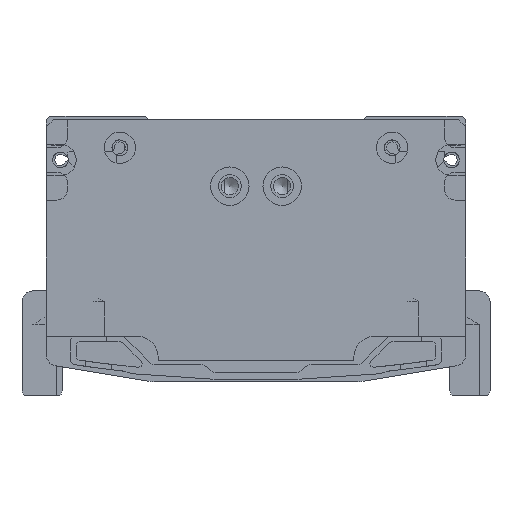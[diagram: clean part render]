
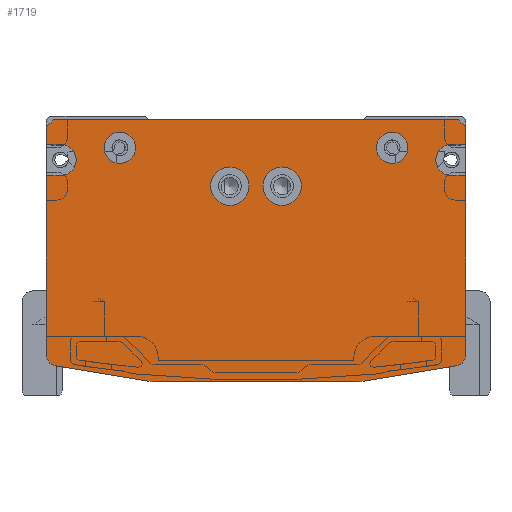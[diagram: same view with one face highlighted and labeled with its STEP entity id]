
A CAD part, front view. The second image highlights one B-rep face of the part: STEP entity #1719.
In plain terms, the highlighted planar face has unit normal (0, -1, 0).
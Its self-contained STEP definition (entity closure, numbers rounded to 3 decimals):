
#1719=ADVANCED_FACE('',(#5116,#5117,#5118,#5119,#5120),#2392,.F.);
#2392=PLANE('',#17083);
#2899=LINE('',#24738,#4008);
#2903=LINE('',#24746,#4012);
#3041=LINE('',#25639,#4150);
#3068=LINE('',#25693,#4177);
#3072=LINE('',#25701,#4181);
#3246=LINE('',#26888,#4355);
#3248=LINE('',#26891,#4357);
#3252=LINE('',#26898,#4361);
#3255=LINE('',#26907,#4364);
#3268=LINE('',#26942,#4377);
#3273=LINE('',#26956,#4382);
#3277=LINE('',#26968,#4386);
#3299=LINE('',#27030,#4408);
#3302=LINE('',#27039,#4411);
#4008=VECTOR('',#19054,1.);
#4012=VECTOR('',#19058,1.);
#4150=VECTOR('',#19530,1.);
#4177=VECTOR('',#19571,1.);
#4181=VECTOR('',#19575,1.);
#4355=VECTOR('',#20383,1.);
#4357=VECTOR('',#20387,1.);
#4361=VECTOR('',#20393,1.);
#4364=VECTOR('',#20404,1.);
#4377=VECTOR('',#20437,1.);
#4382=VECTOR('',#20450,1.);
#4386=VECTOR('',#20462,1.);
#4408=VECTOR('',#20538,1.);
#4411=VECTOR('',#20549,1.);
#5116=FACE_BOUND('',#6320,.T.);
#5117=FACE_BOUND('',#6321,.T.);
#5118=FACE_BOUND('',#6322,.T.);
#5119=FACE_BOUND('',#6323,.T.);
#5120=FACE_BOUND('',#6324,.T.);
#6320=EDGE_LOOP('',(#9345));
#6321=EDGE_LOOP('',(#9346));
#6322=EDGE_LOOP('',(#9347,#9348,#9349,#9350,#9351,#9352,#9353,#9354,#9355,
#9356,#9357,#9358,#9359,#9360,#9361,#9362,#9363,#9364,#9365,#9366));
#6323=EDGE_LOOP('',(#9367));
#6324=EDGE_LOOP('',(#9368));
#9345=ORIENTED_EDGE('',*,*,#14347,.T.);
#9346=ORIENTED_EDGE('',*,*,#14351,.T.);
#9347=ORIENTED_EDGE('',*,*,#14412,.T.);
#9348=ORIENTED_EDGE('',*,*,#14408,.F.);
#9349=ORIENTED_EDGE('',*,*,#14406,.F.);
#9350=ORIENTED_EDGE('',*,*,#14403,.F.);
#9351=ORIENTED_EDGE('',*,*,#14399,.T.);
#9352=ORIENTED_EDGE('',*,*,#14396,.T.);
#9353=ORIENTED_EDGE('',*,*,#14041,.F.);
#9354=ORIENTED_EDGE('',*,*,#14382,.T.);
#9355=ORIENTED_EDGE('',*,*,#14379,.T.);
#9356=ORIENTED_EDGE('',*,*,#14377,.F.);
#9357=ORIENTED_EDGE('',*,*,#14037,.F.);
#9358=ORIENTED_EDGE('',*,*,#14373,.T.);
#9359=ORIENTED_EDGE('',*,*,#14010,.F.);
#9360=ORIENTED_EDGE('',*,*,#14371,.T.);
#9361=ORIENTED_EDGE('',*,*,#13740,.F.);
#9362=ORIENTED_EDGE('',*,*,#14447,.T.);
#9363=ORIENTED_EDGE('',*,*,#14444,.T.);
#9364=ORIENTED_EDGE('',*,*,#14442,.F.);
#9365=ORIENTED_EDGE('',*,*,#13736,.F.);
#9366=ORIENTED_EDGE('',*,*,#14415,.T.);
#9367=ORIENTED_EDGE('',*,*,#14358,.F.);
#9368=ORIENTED_EDGE('',*,*,#14354,.F.);
#12019=VERTEX_POINT('',#24737);
#12020=VERTEX_POINT('',#24739);
#12023=VERTEX_POINT('',#24745);
#12024=VERTEX_POINT('',#24747);
#12159=VERTEX_POINT('',#25638);
#12160=VERTEX_POINT('',#25640);
#12179=VERTEX_POINT('',#25692);
#12180=VERTEX_POINT('',#25694);
#12183=VERTEX_POINT('',#25700);
#12184=VERTEX_POINT('',#25702);
#12399=VERTEX_POINT('',#26831);
#12403=VERTEX_POINT('',#26842);
#12406=VERTEX_POINT('',#26851);
#12409=VERTEX_POINT('',#26861);
#12417=VERTEX_POINT('',#26896);
#12419=VERTEX_POINT('',#26903);
#12430=VERTEX_POINT('',#26937);
#12432=VERTEX_POINT('',#26943);
#12435=VERTEX_POINT('',#26951);
#12437=VERTEX_POINT('',#26957);
#12438=VERTEX_POINT('',#26961);
#12441=VERTEX_POINT('',#26969);
#12453=VERTEX_POINT('',#27028);
#12455=VERTEX_POINT('',#27035);
#13736=EDGE_CURVE('',#12019,#12020,#2899,.T.);
#13740=EDGE_CURVE('',#12023,#12024,#2903,.T.);
#14010=EDGE_CURVE('',#12159,#12160,#3041,.T.);
#14037=EDGE_CURVE('',#12179,#12180,#3068,.T.);
#14041=EDGE_CURVE('',#12183,#12184,#3072,.T.);
#14347=EDGE_CURVE('',#12399,#12399,#15698,.T.);
#14351=EDGE_CURVE('',#12403,#12403,#15702,.T.);
#14354=EDGE_CURVE('',#12406,#12406,#15705,.T.);
#14358=EDGE_CURVE('',#12409,#12409,#15709,.T.);
#14371=EDGE_CURVE('',#12159,#12024,#3246,.T.);
#14373=EDGE_CURVE('',#12179,#12160,#3248,.T.);
#14377=EDGE_CURVE('',#12180,#12417,#3252,.T.);
#14379=EDGE_CURVE('',#12419,#12417,#15716,.T.);
#14382=EDGE_CURVE('',#12183,#12419,#3255,.T.);
#14396=EDGE_CURVE('',#12430,#12184,#15719,.T.);
#14399=EDGE_CURVE('',#12432,#12430,#3268,.T.);
#14403=EDGE_CURVE('',#12432,#12435,#15722,.T.);
#14406=EDGE_CURVE('',#12435,#12437,#3273,.T.);
#14408=EDGE_CURVE('',#12437,#12438,#15723,.T.);
#14412=EDGE_CURVE('',#12441,#12438,#3277,.T.);
#14415=EDGE_CURVE('',#12019,#12441,#15726,.T.);
#14442=EDGE_CURVE('',#12020,#12453,#3299,.T.);
#14444=EDGE_CURVE('',#12455,#12453,#15734,.T.);
#14447=EDGE_CURVE('',#12023,#12455,#3302,.T.);
#15698=CIRCLE('',#16984,5.5);
#15702=CIRCLE('',#16991,5.5);
#15705=CIRCLE('',#16997,4.5);
#15709=CIRCLE('',#17004,4.5);
#15716=CIRCLE('',#17022,4.5);
#15719=CIRCLE('',#17031,3.);
#15722=CIRCLE('',#17036,10.);
#15723=CIRCLE('',#17039,10.);
#15726=CIRCLE('',#17044,3.);
#15734=CIRCLE('',#17071,4.5);
#16984=AXIS2_PLACEMENT_3D('',#26830,#20308,#20309);
#16991=AXIS2_PLACEMENT_3D('',#26841,#20322,#20323);
#16997=AXIS2_PLACEMENT_3D('',#26850,#20334,#20335);
#17004=AXIS2_PLACEMENT_3D('',#26860,#20348,#20349);
#17022=AXIS2_PLACEMENT_3D('',#26902,#20398,#20399);
#17031=AXIS2_PLACEMENT_3D('',#26936,#20430,#20431);
#17036=AXIS2_PLACEMENT_3D('',#26950,#20444,#20445);
#17039=AXIS2_PLACEMENT_3D('',#26960,#20454,#20455);
#17044=AXIS2_PLACEMENT_3D('',#26973,#20468,#20469);
#17071=AXIS2_PLACEMENT_3D('',#27034,#20543,#20544);
#17083=AXIS2_PLACEMENT_3D('',#27056,#20574,#20575);
#19054=DIRECTION('',(0.,0.,1.));
#19058=DIRECTION('',(0.,0.,1.));
#19530=DIRECTION('',(1.,0.,0.));
#19571=DIRECTION('',(0.,0.,-1.));
#19575=DIRECTION('',(0.,0.,-1.));
#20308=DIRECTION('',(0.,1.,0.));
#20309=DIRECTION('',(1.,0.,0.));
#20322=DIRECTION('',(0.,1.,0.));
#20323=DIRECTION('',(1.,0.,0.));
#20334=DIRECTION('',(0.,-1.,0.));
#20335=DIRECTION('',(1.,0.,0.));
#20348=DIRECTION('',(0.,-1.,0.));
#20349=DIRECTION('',(1.,0.,0.));
#20383=DIRECTION('',(-0.707,0.,-0.707));
#20387=DIRECTION('',(-0.707,0.,0.707));
#20393=DIRECTION('',(-1.,0.,0.));
#20398=DIRECTION('',(0.,1.,0.));
#20399=DIRECTION('',(0.,0.,-1.));
#20404=DIRECTION('',(-1.,0.,0.));
#20430=DIRECTION('',(0.,-1.,0.));
#20431=DIRECTION('',(0.164,0.,-0.986));
#20437=DIRECTION('',(0.986,0.,0.164));
#20444=DIRECTION('',(0.,1.,0.));
#20445=DIRECTION('',(0.164,0.,-0.986));
#20450=DIRECTION('',(-1.,0.,0.));
#20454=DIRECTION('',(0.,1.,0.));
#20455=DIRECTION('',(0.,0.,-1.));
#20462=DIRECTION('',(0.986,0.,-0.164));
#20468=DIRECTION('',(0.,-1.,0.));
#20469=DIRECTION('',(-1.,0.,0.));
#20538=DIRECTION('',(1.,0.,0.));
#20543=DIRECTION('',(0.,1.,0.));
#20544=DIRECTION('',(0.,0.,1.));
#20549=DIRECTION('',(1.,0.,0.));
#20574=DIRECTION('',(0.,1.,0.));
#20575=DIRECTION('',(1.,0.,0.));
#24737=CARTESIAN_POINT('',(-60.,-1812.,-69.459));
#24738=CARTESIAN_POINT('',(-60.,-1812.,-69.459));
#24739=CARTESIAN_POINT('',(-60.,-1812.,-18.));
#24745=CARTESIAN_POINT('',(-60.,-1812.,-9.));
#24746=CARTESIAN_POINT('',(-60.,-1812.,-9.));
#24747=CARTESIAN_POINT('',(-60.,-1812.,-4.));
#25638=CARTESIAN_POINT('',(-58.,-1812.,-2.));
#25639=CARTESIAN_POINT('',(-58.,-1812.,-2.));
#25640=CARTESIAN_POINT('',(58.,-1812.,-2.));
#25692=CARTESIAN_POINT('',(60.,-1812.,-4.));
#25693=CARTESIAN_POINT('',(60.,-1812.,-4.));
#25694=CARTESIAN_POINT('',(60.,-1812.,-9.));
#25700=CARTESIAN_POINT('',(60.,-1812.,-18.));
#25701=CARTESIAN_POINT('',(60.,-1812.,-18.));
#25702=CARTESIAN_POINT('',(60.,-1812.,-69.459));
#26830=CARTESIAN_POINT('',(7.5,-1812.,-21.));
#26831=CARTESIAN_POINT('',(13.,-1812.,-21.));
#26841=CARTESIAN_POINT('',(-7.5,-1812.,-21.));
#26842=CARTESIAN_POINT('',(-2.,-1812.,-21.));
#26850=CARTESIAN_POINT('',(-39.,-1812.,-10.));
#26851=CARTESIAN_POINT('',(-34.5,-1812.,-10.));
#26860=CARTESIAN_POINT('',(39.,-1812.,-10.));
#26861=CARTESIAN_POINT('',(43.5,-1812.,-10.));
#26888=CARTESIAN_POINT('',(-58.,-1812.,-2.));
#26891=CARTESIAN_POINT('',(60.,-1812.,-4.));
#26896=CARTESIAN_POINT('',(56.,-1812.,-9.));
#26898=CARTESIAN_POINT('',(60.,-1812.,-9.));
#26902=CARTESIAN_POINT('',(56.,-1812.,-13.5));
#26903=CARTESIAN_POINT('',(56.,-1812.,-18.));
#26907=CARTESIAN_POINT('',(60.,-1812.,-18.));
#26936=CARTESIAN_POINT('',(57.,-1812.,-69.459));
#26937=CARTESIAN_POINT('',(57.493,-1812.,-72.418));
#26942=CARTESIAN_POINT('',(30.816,-1812.,-76.864));
#26943=CARTESIAN_POINT('',(30.816,-1812.,-76.864));
#26950=CARTESIAN_POINT('',(29.172,-1812.,-67.));
#26951=CARTESIAN_POINT('',(29.172,-1812.,-77.));
#26956=CARTESIAN_POINT('',(29.172,-1812.,-77.));
#26957=CARTESIAN_POINT('',(-29.172,-1812.,-77.));
#26960=CARTESIAN_POINT('',(-29.172,-1812.,-67.));
#26961=CARTESIAN_POINT('',(-30.816,-1812.,-76.864));
#26968=CARTESIAN_POINT('',(-57.493,-1812.,-72.418));
#26969=CARTESIAN_POINT('',(-57.493,-1812.,-72.418));
#26973=CARTESIAN_POINT('',(-57.,-1812.,-69.459));
#27028=CARTESIAN_POINT('',(-56.,-1812.,-18.));
#27030=CARTESIAN_POINT('',(-60.,-1812.,-18.));
#27034=CARTESIAN_POINT('',(-56.,-1812.,-13.5));
#27035=CARTESIAN_POINT('',(-56.,-1812.,-9.));
#27039=CARTESIAN_POINT('',(-60.,-1812.,-9.));
#27056=CARTESIAN_POINT('',(0.,-1812.,-2.));
